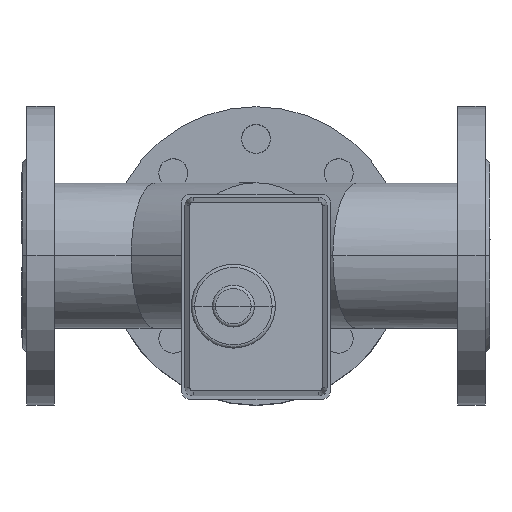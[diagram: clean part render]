
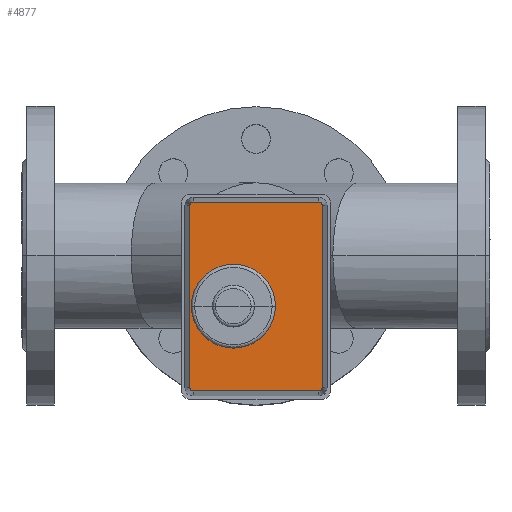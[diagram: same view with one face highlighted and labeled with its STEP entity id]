
A CAD part, top view. The second image highlights one B-rep face of the part: STEP entity #4877.
In plain terms, the highlighted planar face has unit normal (0, 0, 1).
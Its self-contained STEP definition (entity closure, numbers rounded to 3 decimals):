
#422=LINE('',#8675,#692);
#423=LINE('',#8679,#693);
#424=LINE('',#8683,#694);
#425=LINE('',#8686,#695);
#692=VECTOR('',#6884,304.8);
#693=VECTOR('',#6887,304.8);
#694=VECTOR('',#6890,304.8);
#695=VECTOR('',#6893,304.8);
#1205=FACE_OUTER_BOUND('',#1559,.T.);
#1559=EDGE_LOOP('',(#4068,#4069,#4070,#4071,#4072,#4073,#4074,#4075));
#1916=CIRCLE('',#5476,2.);
#1917=CIRCLE('',#5477,2.);
#1918=CIRCLE('',#5478,2.);
#1919=CIRCLE('',#5479,2.);
#2316=VERTEX_POINT('',#8671);
#2317=VERTEX_POINT('',#8672);
#2318=VERTEX_POINT('',#8674);
#2319=VERTEX_POINT('',#8676);
#2320=VERTEX_POINT('',#8678);
#2321=VERTEX_POINT('',#8680);
#2322=VERTEX_POINT('',#8682);
#2323=VERTEX_POINT('',#8684);
#2912=EDGE_CURVE('',#2316,#2317,#1916,.T.);
#2913=EDGE_CURVE('',#2317,#2318,#422,.T.);
#2914=EDGE_CURVE('',#2318,#2319,#1917,.T.);
#2915=EDGE_CURVE('',#2319,#2320,#423,.T.);
#2916=EDGE_CURVE('',#2320,#2321,#1918,.T.);
#2917=EDGE_CURVE('',#2321,#2322,#424,.T.);
#2918=EDGE_CURVE('',#2322,#2323,#1919,.T.);
#2919=EDGE_CURVE('',#2323,#2316,#425,.T.);
#4068=ORIENTED_EDGE('',*,*,#2912,.T.);
#4069=ORIENTED_EDGE('',*,*,#2913,.T.);
#4070=ORIENTED_EDGE('',*,*,#2914,.T.);
#4071=ORIENTED_EDGE('',*,*,#2915,.T.);
#4072=ORIENTED_EDGE('',*,*,#2916,.T.);
#4073=ORIENTED_EDGE('',*,*,#2917,.T.);
#4074=ORIENTED_EDGE('',*,*,#2918,.T.);
#4075=ORIENTED_EDGE('',*,*,#2919,.T.);
#4349=PLANE('',#5475);
#4877=ADVANCED_FACE('',(#1205),#4349,.T.);
#5475=AXIS2_PLACEMENT_3D('',#8670,#6880,#6881);
#5476=AXIS2_PLACEMENT_3D('',#8673,#6882,#6883);
#5477=AXIS2_PLACEMENT_3D('',#8677,#6885,#6886);
#5478=AXIS2_PLACEMENT_3D('',#8681,#6888,#6889);
#5479=AXIS2_PLACEMENT_3D('',#8685,#6891,#6892);
#6880=DIRECTION('center_axis',(0.,0.,1.));
#6881=DIRECTION('ref_axis',(0.,1.,0.));
#6882=DIRECTION('center_axis',(0.,0.,1.));
#6883=DIRECTION('ref_axis',(0.,-1.,0.));
#6884=DIRECTION('',(1.,0.,0.));
#6885=DIRECTION('center_axis',(0.,0.,
1.));
#6886=DIRECTION('ref_axis',(1.,0.,0.));
#6887=DIRECTION('',(0.,1.,0.));
#6888=DIRECTION('center_axis',(0.,0.,1.));
#6889=DIRECTION('ref_axis',(0.,1.,0.));
#6890=DIRECTION('',(-1.,0.,0.));
#6891=DIRECTION('center_axis',(0.,0.,1.));
#6892=DIRECTION('ref_axis',(-1.,0.,0.));
#6893=DIRECTION('',(0.,-1.,0.));
#8670=CARTESIAN_POINT('Origin',(-26.001,0.,
297.991));
#8671=CARTESIAN_POINT('',(-84.509,-39.,297.991));
#8672=CARTESIAN_POINT('',(-82.509,-41.,297.991));
#8673=CARTESIAN_POINT('Origin',(-82.509,-39.,297.991));
#8674=CARTESIAN_POINT('',(30.508,-41.,297.991));
#8675=CARTESIAN_POINT('',(30.508,-41.,297.991));
#8676=CARTESIAN_POINT('',(32.508,-39.,297.991));
#8677=CARTESIAN_POINT('Origin',(30.508,-39.,297.991));
#8678=CARTESIAN_POINT('',(32.508,39.,297.991));
#8679=CARTESIAN_POINT('',(32.508,39.,297.991));
#8680=CARTESIAN_POINT('',(30.508,41.,297.991));
#8681=CARTESIAN_POINT('Origin',(30.508,39.,297.991));
#8682=CARTESIAN_POINT('',(-82.509,41.,297.991));
#8683=CARTESIAN_POINT('',(-82.509,41.,297.991));
#8684=CARTESIAN_POINT('',(-84.509,39.,297.991));
#8685=CARTESIAN_POINT('Origin',(-82.509,39.,297.991));
#8686=CARTESIAN_POINT('',(-84.509,-39.,297.991));
